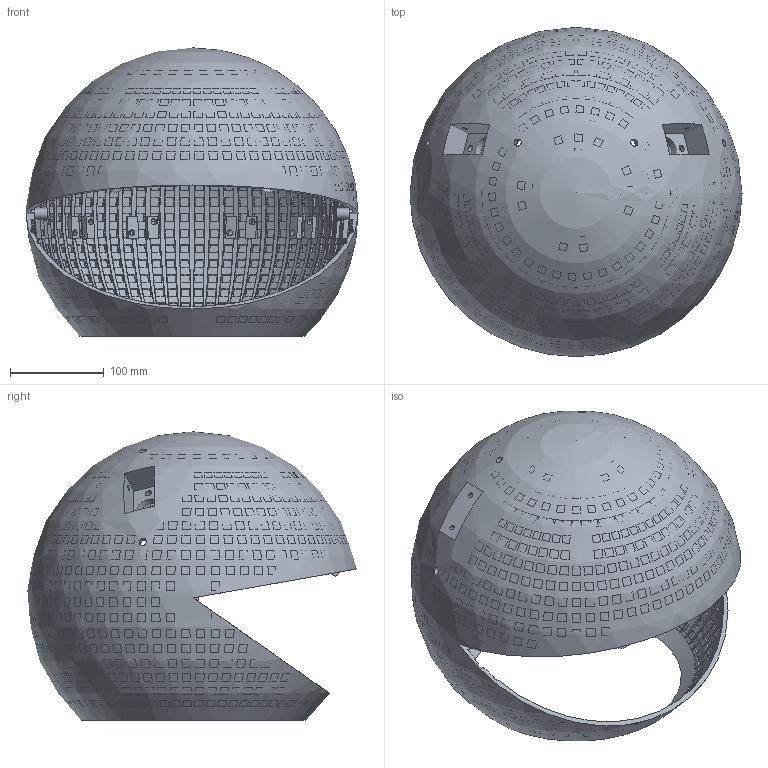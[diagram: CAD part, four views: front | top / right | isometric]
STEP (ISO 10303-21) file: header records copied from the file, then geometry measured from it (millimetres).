
FILE_DESCRIPTION(('Open CASCADE Model'),'2;1');
FILE_NAME('Open CASCADE Shape Model','2026-11-04T23:46:22',('Author'),( 'Open CASCADE'),'Open CASCADE STEP processor 7.9','Open CASCADE 7.9' ,'Unknown');
FILE_SCHEMA(('AUTOMOTIVE_DESIGN { 1 0 10303 214 1 1 1 1 }'));
Products named in the file (1): Open CASCADE STEP translator 7.9 2
Bounding box: 354.34 x 351.48 x 307.77 mm (x, y, z)
Volume: 1249873.7 mm3; surface area: 733273 mm2
Topology: 1 solids, 13 shells, 5941 faces, 14702 edges, 9729 vertices
Faces by surface type: plane 5634, cylinder 285, sphere 12, cone 10
Full cylindrical faces by diameter (mm): 2 x12, 5.2 x8, 6.4 x24, 7 x4, 8 x4, 12 x2, 16 x1, 20 x2, 25.9 x2
Entity records: 384639 total; most frequent: CARTESIAN_POINT 93148, DIRECTION 52473, LINE 30459, VECTOR 30459, ORIENTED_EDGE 29400, PCURVE 29400, DEFINITIONAL_REPRESENTATION 29400, EDGE_CURVE 14700
